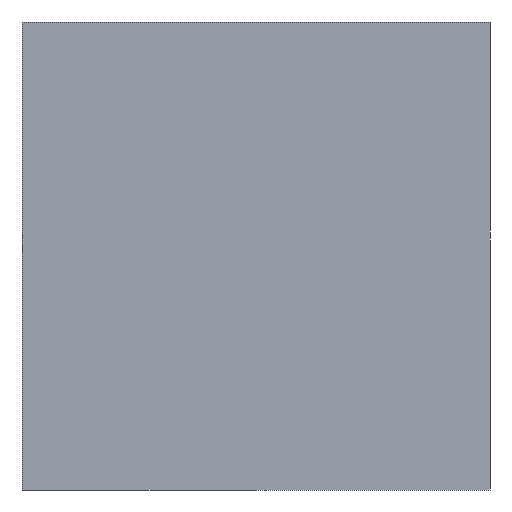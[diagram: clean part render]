
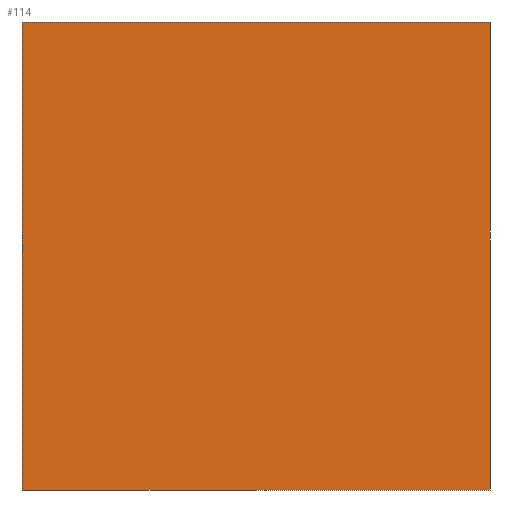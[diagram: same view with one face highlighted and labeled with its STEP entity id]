
A CAD part, left-side view. The second image highlights one B-rep face of the part: STEP entity #114.
In plain terms, the highlighted planar face has unit normal (-1, 0, 0).
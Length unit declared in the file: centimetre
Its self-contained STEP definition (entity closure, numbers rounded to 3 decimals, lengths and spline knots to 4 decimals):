
#17 = ORIENTED_EDGE ( 'NONE', *, *, #168, .F. ) ;
#18 = CARTESIAN_POINT ( 'NONE',  ( 0., 0., 1000. ) ) ;
#22 = EDGE_CURVE ( 'NONE', #95, #243, #290, .T. ) ;
#48 = FACE_OUTER_BOUND ( 'NONE', #215, .T. ) ;
#60 = VECTOR ( 'NONE', #203, 100. ) ;
#80 = DIRECTION ( 'NONE',  ( 0., 0., -1. ) ) ;
#81 = PLANE ( 'NONE',  #318 ) ;
#85 = ORIENTED_EDGE ( 'NONE', *, *, #138, .F. ) ;
#95 = VERTEX_POINT ( 'NONE', #179 ) ;
#97 = VECTOR ( 'NONE', #393, 100. ) ;
#107 = CARTESIAN_POINT ( 'NONE',  ( 0., 1000., 0. ) ) ;
#111 = CARTESIAN_POINT ( 'NONE',  ( 0., 1000., 1000. ) ) ;
#112 = LINE ( 'NONE', #111, #60 ) ;
#114 = ADVANCED_FACE ( 'NONE', ( #48 ), #81, .F. ) ;
#138 = EDGE_CURVE ( 'NONE', #302, #243, #357, .T. ) ;
#144 = DIRECTION ( 'NONE',  ( 1., 0., 0. ) ) ;
#148 = LINE ( 'NONE', #293, #97 ) ;
#157 = CARTESIAN_POINT ( 'NONE',  ( 0., 1000., 1000. ) ) ;
#162 = EDGE_CURVE ( 'NONE', #404, #95, #148, .T. ) ;
#168 = EDGE_CURVE ( 'NONE', #404, #302, #112, .T. ) ;
#179 = CARTESIAN_POINT ( 'NONE',  ( 0., 1000., 0. ) ) ;
#182 = DIRECTION ( 'NONE',  ( 0., 0., -1. ) ) ;
#203 = DIRECTION ( 'NONE',  ( 0., -1., 0. ) ) ;
#215 = EDGE_LOOP ( 'NONE', ( #406, #85, #17, #387 ) ) ;
#232 = DIRECTION ( 'NONE',  ( 0., -1., 0. ) ) ;
#243 = VERTEX_POINT ( 'NONE', #265 ) ;
#265 = CARTESIAN_POINT ( 'NONE',  ( 0., 0., 0. ) ) ;
#282 = CARTESIAN_POINT ( 'NONE',  ( 0., 0., 1000. ) ) ;
#290 = LINE ( 'NONE', #107, #334 ) ;
#293 = CARTESIAN_POINT ( 'NONE',  ( 0., 1000., 1000. ) ) ;
#294 = CARTESIAN_POINT ( 'NONE',  ( 0., 1000., 1000. ) ) ;
#302 = VERTEX_POINT ( 'NONE', #282 ) ;
#318 = AXIS2_PLACEMENT_3D ( 'NONE', #294, #144, #80 ) ;
#334 = VECTOR ( 'NONE', #232, 100. ) ;
#357 = LINE ( 'NONE', #18, #373 ) ;
#373 = VECTOR ( 'NONE', #182, 100. ) ;
#387 = ORIENTED_EDGE ( 'NONE', *, *, #162, .T. ) ;
#393 = DIRECTION ( 'NONE',  ( 0., 0., -1. ) ) ;
#404 = VERTEX_POINT ( 'NONE', #157 ) ;
#406 = ORIENTED_EDGE ( 'NONE', *, *, #22, .T. ) ;
